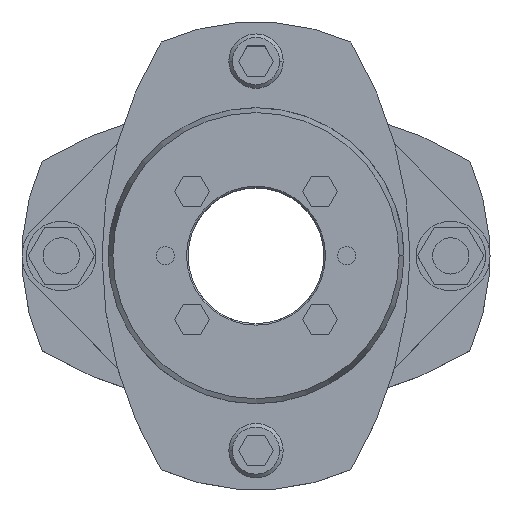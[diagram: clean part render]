
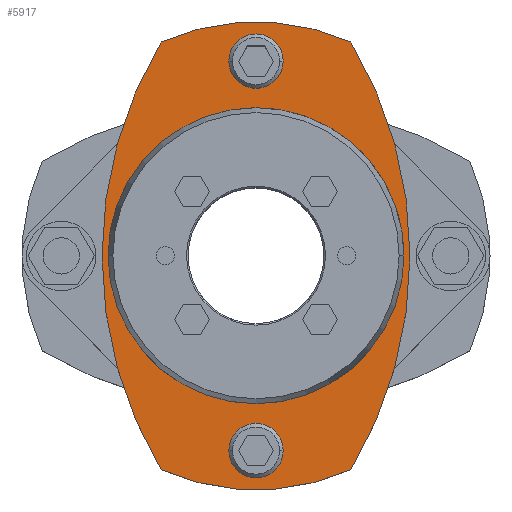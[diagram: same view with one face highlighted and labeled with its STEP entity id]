
A CAD part, top view. The second image highlights one B-rep face of the part: STEP entity #5917.
In plain terms, the highlighted planar face has unit normal (0, 0, 1).
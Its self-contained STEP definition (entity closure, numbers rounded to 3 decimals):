
#773=CARTESIAN_POINT('',(-51.,0.,22.0));
#774=VERTEX_POINT('',#773);
#790=CARTESIAN_POINT('',(-31.43,-70.841,22.0));
#791=VERTEX_POINT('',#790);
#798=CARTESIAN_POINT('',(87.,0.,22.0));
#799=DIRECTION('',(0.0,0.0,-1.0));
#800=DIRECTION('',(-1.0,0.0,0.0));
#801=AXIS2_PLACEMENT_3D('',#798,#799,#800);
#802=CIRCLE('',#801,138.);
#803=EDGE_CURVE('',#791,#774,#802,.T.);
#813=CARTESIAN_POINT('',(51.,0.,22.0));
#814=VERTEX_POINT('',#813);
#823=CARTESIAN_POINT('',(31.43,-70.841,22.0));
#824=VERTEX_POINT('',#823);
#825=CARTESIAN_POINT('',(-87.,0.,22.0));
#826=DIRECTION('',(0.0,0.0,-1.0));
#827=DIRECTION('',(-1.0,0.0,0.0));
#828=AXIS2_PLACEMENT_3D('',#825,#826,#827);
#829=CIRCLE('',#828,138.);
#830=EDGE_CURVE('',#814,#824,#829,.T.);
#1079=CARTESIAN_POINT('',(-36.0,0.,22.0));
#1080=VERTEX_POINT('',#1079);
#1130=CARTESIAN_POINT('',(36.0,0.,22.0));
#1131=VERTEX_POINT('',#1130);
#1138=CARTESIAN_POINT('',(0.,0.,22.0));
#1139=DIRECTION('',(0.0,0.0,-1.0));
#1140=DIRECTION('',(-1.0,0.0,0.0));
#1141=AXIS2_PLACEMENT_3D('',#1138,#1139,#1140);
#1142=CIRCLE('',#1141,36.0);
#1143=EDGE_CURVE('',#1080,#1131,#1142,.T.);
#1239=CARTESIAN_POINT('',(-9.,-64.5,22.0));
#1240=VERTEX_POINT('',#1239);
#1256=CARTESIAN_POINT('',(9.,-64.5,22.0));
#1257=VERTEX_POINT('',#1256);
#1264=CARTESIAN_POINT('',(0.,-64.5,22.0));
#1265=DIRECTION('',(0.0,0.0,-1.0));
#1266=DIRECTION('',(-1.0,0.0,0.0));
#1267=AXIS2_PLACEMENT_3D('',#1264,#1265,#1266);
#1268=CIRCLE('',#1267,9.0);
#1269=EDGE_CURVE('',#1240,#1257,#1268,.T.);
#1313=CARTESIAN_POINT('',(-9.,64.5,22.0));
#1314=VERTEX_POINT('',#1313);
#1330=CARTESIAN_POINT('',(9.,64.5,22.0));
#1331=VERTEX_POINT('',#1330);
#1338=CARTESIAN_POINT('',(0.,64.5,22.0));
#1339=DIRECTION('',(0.0,0.0,-1.0));
#1340=DIRECTION('',(-1.0,0.0,0.0));
#1341=AXIS2_PLACEMENT_3D('',#1338,#1339,#1340);
#1342=CIRCLE('',#1341,9.0);
#1343=EDGE_CURVE('',#1314,#1331,#1342,.T.);
#4458=CARTESIAN_POINT('',(0.,64.5,22.0));
#4459=DIRECTION('',(0.0,0.0,-1.0));
#4460=DIRECTION('',(-1.0,0.0,0.0));
#4461=AXIS2_PLACEMENT_3D('',#4458,#4459,#4460);
#4462=CIRCLE('',#4461,9.0);
#4463=EDGE_CURVE('',#1331,#1314,#4462,.T.);
#4518=CARTESIAN_POINT('',(0.,-64.5,22.0));
#4519=DIRECTION('',(0.0,0.0,-1.0));
#4520=DIRECTION('',(-1.0,0.0,0.0));
#4521=AXIS2_PLACEMENT_3D('',#4518,#4519,#4520);
#4522=CIRCLE('',#4521,9.0);
#4523=EDGE_CURVE('',#1257,#1240,#4522,.T.);
#5590=CARTESIAN_POINT('',(0.,0.,22.0));
#5591=DIRECTION('',(0.0,0.0,-1.0));
#5592=DIRECTION('',(-1.0,0.0,0.0));
#5593=AXIS2_PLACEMENT_3D('',#5590,#5591,#5592);
#5594=CIRCLE('',#5593,36.0);
#5595=EDGE_CURVE('',#1131,#1080,#5594,.T.);
#5811=CARTESIAN_POINT('',(-31.43,70.841,22.0));
#5812=VERTEX_POINT('',#5811);
#5813=CARTESIAN_POINT('',(31.43,70.841,22.0));
#5814=VERTEX_POINT('',#5813);
#5815=CARTESIAN_POINT('',(0.0,0.,22.0));
#5816=DIRECTION('',(0.0,0.0,-1.0));
#5817=DIRECTION('',(-1.0,0.0,0.0));
#5818=AXIS2_PLACEMENT_3D('',#5815,#5816,#5817);
#5819=CIRCLE('',#5818,77.5);
#5820=EDGE_CURVE('',#5812,#5814,#5819,.T.);
#5846=CARTESIAN_POINT('',(-87.,0.,22.0));
#5847=DIRECTION('',(0.0,0.0,-1.0));
#5848=DIRECTION('',(-1.0,0.0,0.0));
#5849=AXIS2_PLACEMENT_3D('',#5846,#5847,#5848);
#5850=CIRCLE('',#5849,138.);
#5851=EDGE_CURVE('',#5814,#814,#5850,.T.);
#5861=CARTESIAN_POINT('',(0.0,0.,22.0));
#5862=DIRECTION('',(0.0,0.0,-1.0));
#5863=DIRECTION('',(-1.0,0.0,0.0));
#5864=AXIS2_PLACEMENT_3D('',#5861,#5862,#5863);
#5865=CIRCLE('',#5864,77.5);
#5866=EDGE_CURVE('',#824,#791,#5865,.T.);
#5880=CARTESIAN_POINT('',(87.,0.,22.0));
#5881=DIRECTION('',(0.0,0.0,-1.0));
#5882=DIRECTION('',(-1.0,0.0,0.0));
#5883=AXIS2_PLACEMENT_3D('',#5880,#5881,#5882);
#5884=CIRCLE('',#5883,138.);
#5885=EDGE_CURVE('',#774,#5812,#5884,.T.);
#5892=CARTESIAN_POINT('',(0.,0.,22.0));
#5893=DIRECTION('',(0.0,0.0,1.0));
#5894=DIRECTION('',(-1.0,0.0,0.0));
#5895=AXIS2_PLACEMENT_3D('',#5892,#5893,#5894);
#5896=PLANE('',#5895);
#5897=ORIENTED_EDGE('',*,*,#5820,.F.);
#5898=ORIENTED_EDGE('',*,*,#5885,.F.);
#5899=ORIENTED_EDGE('',*,*,#803,.F.);
#5900=ORIENTED_EDGE('',*,*,#5866,.F.);
#5901=ORIENTED_EDGE('',*,*,#830,.F.);
#5902=ORIENTED_EDGE('',*,*,#5851,.F.);
#5903=EDGE_LOOP('',(#5897,#5898,#5899,#5900,#5901,#5902));
#5904=FACE_OUTER_BOUND('',#5903,.T.);
#5905=ORIENTED_EDGE('',*,*,#1269,.T.);
#5906=ORIENTED_EDGE('',*,*,#4523,.T.);
#5907=EDGE_LOOP('',(#5905,#5906));
#5908=FACE_BOUND('',#5907,.T.);
#5909=ORIENTED_EDGE('',*,*,#1343,.T.);
#5910=ORIENTED_EDGE('',*,*,#4463,.T.);
#5911=EDGE_LOOP('',(#5909,#5910));
#5912=FACE_BOUND('',#5911,.T.);
#5913=ORIENTED_EDGE('',*,*,#1143,.T.);
#5914=ORIENTED_EDGE('',*,*,#5595,.T.);
#5915=EDGE_LOOP('',(#5913,#5914));
#5916=FACE_BOUND('',#5915,.T.);
#5917=ADVANCED_FACE('',(#5904,#5908,#5912,#5916),#5896,.T.);
